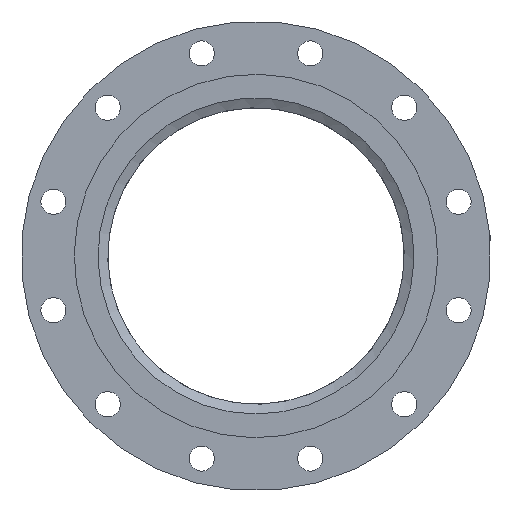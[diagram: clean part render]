
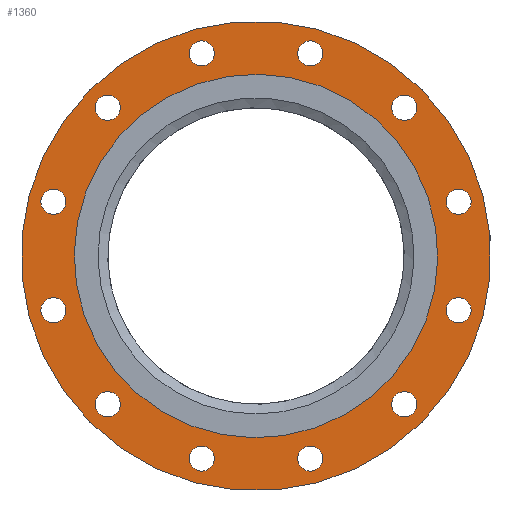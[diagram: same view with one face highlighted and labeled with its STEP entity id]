
A CAD part, front view. The second image highlights one B-rep face of the part: STEP entity #1360.
In plain terms, the highlighted planar face has unit normal (0, -1, 0).
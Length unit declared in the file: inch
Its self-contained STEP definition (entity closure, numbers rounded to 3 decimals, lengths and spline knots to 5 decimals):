
#46=PLANE('',#1494);
#120=FACE_BOUND('',#389,.T.);
#121=FACE_BOUND('',#390,.T.);
#122=FACE_BOUND('',#391,.T.);
#123=FACE_BOUND('',#392,.T.);
#124=FACE_BOUND('',#393,.T.);
#125=FACE_BOUND('',#394,.T.);
#126=FACE_BOUND('',#395,.T.);
#127=FACE_BOUND('',#396,.T.);
#128=FACE_BOUND('',#397,.T.);
#129=FACE_BOUND('',#398,.T.);
#130=FACE_BOUND('',#399,.T.);
#131=FACE_BOUND('',#400,.T.);
#132=FACE_BOUND('',#401,.T.);
#245=FACE_OUTER_BOUND('',#388,.T.);
#388=EDGE_LOOP('',(#1013));
#389=EDGE_LOOP('',(#1014));
#390=EDGE_LOOP('',(#1015));
#391=EDGE_LOOP('',(#1016));
#392=EDGE_LOOP('',(#1017));
#393=EDGE_LOOP('',(#1018));
#394=EDGE_LOOP('',(#1019));
#395=EDGE_LOOP('',(#1020));
#396=EDGE_LOOP('',(#1021));
#397=EDGE_LOOP('',(#1022));
#398=EDGE_LOOP('',(#1023));
#399=EDGE_LOOP('',(#1024));
#400=EDGE_LOOP('',(#1025));
#401=EDGE_LOOP('',(#1026));
#609=CIRCLE('',#1495,10.5);
#610=CIRCLE('',#1496,0.5625);
#611=CIRCLE('',#1497,0.5625);
#612=CIRCLE('',#1498,0.5625);
#613=CIRCLE('',#1499,0.5625);
#614=CIRCLE('',#1500,0.5625);
#615=CIRCLE('',#1501,0.5625);
#616=CIRCLE('',#1502,0.5625);
#617=CIRCLE('',#1503,0.5625);
#618=CIRCLE('',#1504,0.5625);
#619=CIRCLE('',#1505,0.5625);
#620=CIRCLE('',#1506,0.5625);
#621=CIRCLE('',#1507,0.5625);
#622=CIRCLE('',#1508,8.125);
#734=VERTEX_POINT('',#2207);
#735=VERTEX_POINT('',#2209);
#736=VERTEX_POINT('',#2211);
#737=VERTEX_POINT('',#2213);
#738=VERTEX_POINT('',#2215);
#739=VERTEX_POINT('',#2217);
#740=VERTEX_POINT('',#2219);
#741=VERTEX_POINT('',#2221);
#742=VERTEX_POINT('',#2223);
#743=VERTEX_POINT('',#2225);
#744=VERTEX_POINT('',#2227);
#745=VERTEX_POINT('',#2229);
#746=VERTEX_POINT('',#2231);
#747=VERTEX_POINT('',#2233);
#859=EDGE_CURVE('',#734,#734,#609,.T.);
#860=EDGE_CURVE('',#735,#735,#610,.T.);
#861=EDGE_CURVE('',#736,#736,#611,.T.);
#862=EDGE_CURVE('',#737,#737,#612,.T.);
#863=EDGE_CURVE('',#738,#738,#613,.T.);
#864=EDGE_CURVE('',#739,#739,#614,.T.);
#865=EDGE_CURVE('',#740,#740,#615,.T.);
#866=EDGE_CURVE('',#741,#741,#616,.T.);
#867=EDGE_CURVE('',#742,#742,#617,.T.);
#868=EDGE_CURVE('',#743,#743,#618,.T.);
#869=EDGE_CURVE('',#744,#744,#619,.T.);
#870=EDGE_CURVE('',#745,#745,#620,.T.);
#871=EDGE_CURVE('',#746,#746,#621,.T.);
#872=EDGE_CURVE('',#747,#747,#622,.T.);
#1013=ORIENTED_EDGE('',*,*,#859,.T.);
#1014=ORIENTED_EDGE('',*,*,#860,.T.);
#1015=ORIENTED_EDGE('',*,*,#861,.T.);
#1016=ORIENTED_EDGE('',*,*,#862,.T.);
#1017=ORIENTED_EDGE('',*,*,#863,.T.);
#1018=ORIENTED_EDGE('',*,*,#864,.T.);
#1019=ORIENTED_EDGE('',*,*,#865,.T.);
#1020=ORIENTED_EDGE('',*,*,#866,.T.);
#1021=ORIENTED_EDGE('',*,*,#867,.T.);
#1022=ORIENTED_EDGE('',*,*,#868,.T.);
#1023=ORIENTED_EDGE('',*,*,#869,.T.);
#1024=ORIENTED_EDGE('',*,*,#870,.T.);
#1025=ORIENTED_EDGE('',*,*,#871,.T.);
#1026=ORIENTED_EDGE('',*,*,#872,.F.);
#1360=ADVANCED_FACE('',(#245,#120,#121,#122,#123,#124,#125,#126,#127,#128,
#129,#130,#131,#132),#46,.T.);
#1494=AXIS2_PLACEMENT_3D('',#2206,#1771,#1772);
#1495=AXIS2_PLACEMENT_3D('',#2208,#1773,#1774);
#1496=AXIS2_PLACEMENT_3D('',#2210,#1775,#1776);
#1497=AXIS2_PLACEMENT_3D('',#2212,#1777,#1778);
#1498=AXIS2_PLACEMENT_3D('',#2214,#1779,#1780);
#1499=AXIS2_PLACEMENT_3D('',#2216,#1781,#1782);
#1500=AXIS2_PLACEMENT_3D('',#2218,#1783,#1784);
#1501=AXIS2_PLACEMENT_3D('',#2220,#1785,#1786);
#1502=AXIS2_PLACEMENT_3D('',#2222,#1787,#1788);
#1503=AXIS2_PLACEMENT_3D('',#2224,#1789,#1790);
#1504=AXIS2_PLACEMENT_3D('',#2226,#1791,#1792);
#1505=AXIS2_PLACEMENT_3D('',#2228,#1793,#1794);
#1506=AXIS2_PLACEMENT_3D('',#2230,#1795,#1796);
#1507=AXIS2_PLACEMENT_3D('',#2232,#1797,#1798);
#1508=AXIS2_PLACEMENT_3D('',#2234,#1799,#1800);
#1771=DIRECTION('center_axis',(0.,-1.,0.));
#1772=DIRECTION('ref_axis',(-0.966,0.,0.259));
#1773=DIRECTION('center_axis',(0.,-1.,0.));
#1774=DIRECTION('ref_axis',(-0.966,0.,0.259));
#1775=DIRECTION('center_axis',(0.,1.,0.));
#1776=DIRECTION('ref_axis',(-0.966,0.,-0.259));
#1777=DIRECTION('center_axis',(0.,1.,0.));
#1778=DIRECTION('ref_axis',(-0.707,0.,-0.707));
#1779=DIRECTION('center_axis',(0.,1.,0.));
#1780=DIRECTION('ref_axis',(-0.259,0.,-0.966));
#1781=DIRECTION('center_axis',(0.,1.,0.));
#1782=DIRECTION('ref_axis',(0.259,0.,-0.966));
#1783=DIRECTION('center_axis',(0.,1.,0.));
#1784=DIRECTION('ref_axis',(0.707,0.,-0.707));
#1785=DIRECTION('center_axis',(0.,1.,0.));
#1786=DIRECTION('ref_axis',(0.966,0.,-0.259));
#1787=DIRECTION('center_axis',(0.,1.,0.));
#1788=DIRECTION('ref_axis',(0.966,0.,0.259));
#1789=DIRECTION('center_axis',(0.,1.,0.));
#1790=DIRECTION('ref_axis',(0.707,0.,0.707));
#1791=DIRECTION('center_axis',(0.,1.,0.));
#1792=DIRECTION('ref_axis',(0.259,0.,0.966));
#1793=DIRECTION('center_axis',(0.,1.,0.));
#1794=DIRECTION('ref_axis',(-0.259,0.,0.966));
#1795=DIRECTION('center_axis',(0.,1.,0.));
#1796=DIRECTION('ref_axis',(-0.707,0.,0.707));
#1797=DIRECTION('center_axis',(0.,1.,0.));
#1798=DIRECTION('ref_axis',(-0.966,0.,0.259));
#1799=DIRECTION('center_axis',(0.,-1.,0.));
#1800=DIRECTION('ref_axis',(-0.857,0.,0.515));
#2206=CARTESIAN_POINT('Origin',(0.,0.375,
0.));
#2207=CARTESIAN_POINT('',(10.14222,0.375,-2.7176));
#2208=CARTESIAN_POINT('Origin',(0.,0.375,
0.));
#2209=CARTESIAN_POINT('',(1.8831,0.375,-9.20114));
#2210=CARTESIAN_POINT('Origin',(2.42643,0.375,-9.05555));
#2211=CARTESIAN_POINT('',(6.23138,0.375,-7.02687));
#2212=CARTESIAN_POINT('Origin',(6.62913,0.375,-6.62913));
#2213=CARTESIAN_POINT('',(8.90997,0.375,-2.96976));
#2214=CARTESIAN_POINT('Origin',(9.05555,0.375,-2.42643));
#2215=CARTESIAN_POINT('',(9.20114,0.375,1.8831));
#2216=CARTESIAN_POINT('Origin',(9.05555,0.375,2.42643));
#2217=CARTESIAN_POINT('',(7.02687,0.375,6.23138));
#2218=CARTESIAN_POINT('Origin',(6.62913,0.375,6.62913));
#2219=CARTESIAN_POINT('',(2.96976,0.375,8.90997));
#2220=CARTESIAN_POINT('Origin',(2.42643,0.375,9.05555));
#2221=CARTESIAN_POINT('',(-1.8831,0.375,9.20114));
#2222=CARTESIAN_POINT('Origin',(-2.42643,0.375,9.05555));
#2223=CARTESIAN_POINT('',(-6.23138,0.375,7.02687));
#2224=CARTESIAN_POINT('Origin',(-6.62913,0.375,6.62913));
#2225=CARTESIAN_POINT('',(-8.90997,0.375,2.96976));
#2226=CARTESIAN_POINT('Origin',(-9.05555,0.375,2.42643));
#2227=CARTESIAN_POINT('',(-9.20114,0.375,-1.8831));
#2228=CARTESIAN_POINT('Origin',(-9.05555,0.375,-2.42643));
#2229=CARTESIAN_POINT('',(-7.02687,0.375,-6.23138));
#2230=CARTESIAN_POINT('Origin',(-6.62913,0.375,-6.62913));
#2231=CARTESIAN_POINT('',(-2.96976,0.375,-8.90997));
#2232=CARTESIAN_POINT('Origin',(-2.42643,0.375,-9.05555));
#2233=CARTESIAN_POINT('',(6.96665,0.375,-4.18107));
#2234=CARTESIAN_POINT('Origin',(0.,0.375,0.));
